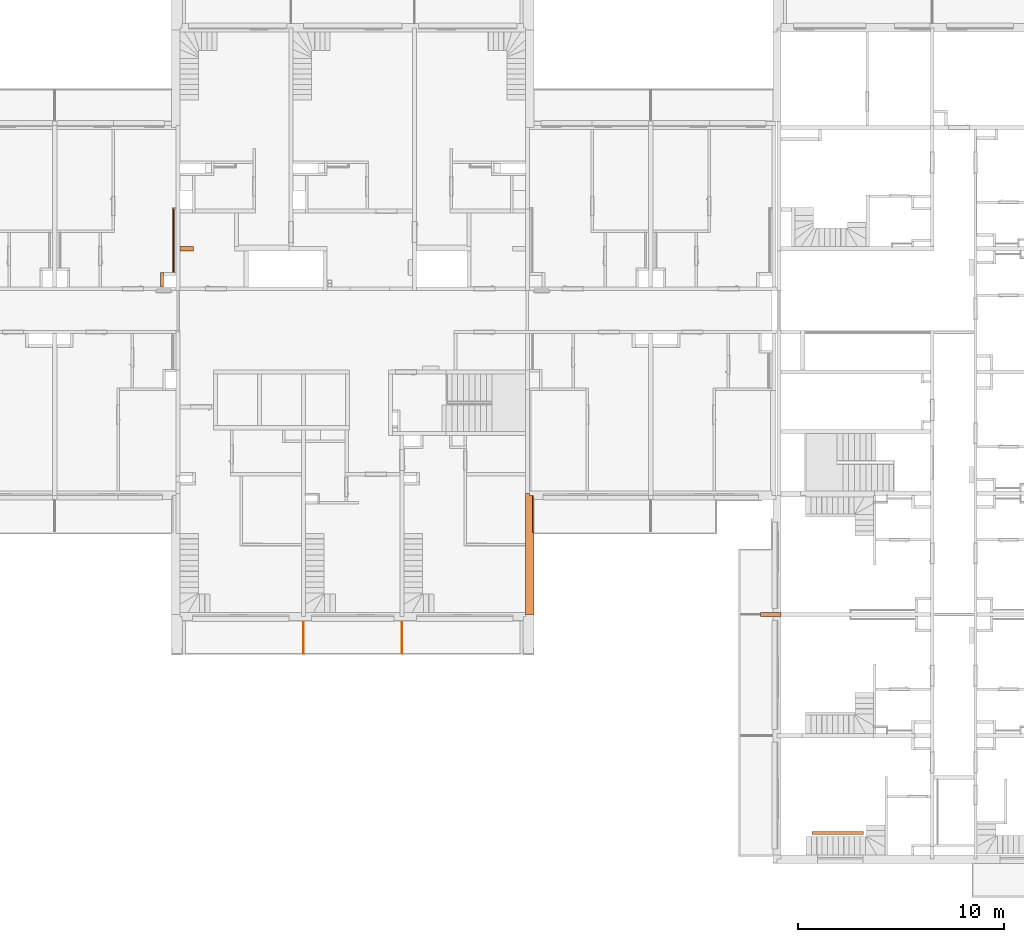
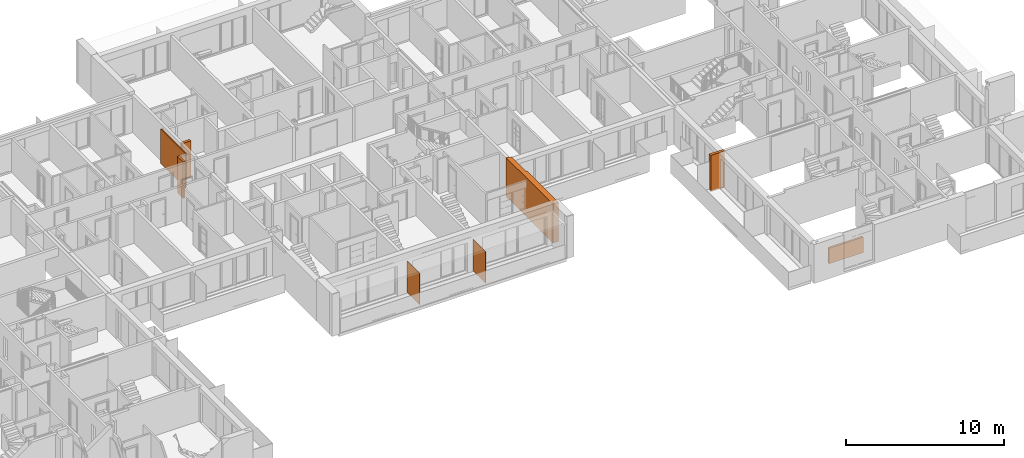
# One storey, part 50 of 61: 8 proxies.
"""IFC2X3 building model written with IfcOpenShell, lengths in millimetres."""

from ifc_helpers import new_model, entity, si_unit, converted_unit, derived_unit, money_unit, direction, frame, origin_with_axes, place, context, subcontext, project, spatial, faceted_brep, material, material_list, type_object, element, save


model = new_model("IFC2X3")

# Units and contexts
model_context = context("Model", 3, precision=0.01, world=origin_with_axes(), true_north=direction((0.34421633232, 0.938890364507)))
body_context = subcontext(model_context, "Body", "Model", "MODEL_VIEW")
ifc_project = project(units=[si_unit("LENGTHUNIT", "METRE", prefix="MILLI"), si_unit("AREAUNIT", "SQUARE_METRE"), si_unit("VOLUMEUNIT", "CUBIC_METRE"), converted_unit("PLANEANGLEUNIT", "DEGREE", entity("IfcPlaneAngleMeasure", 0.0174532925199), si_unit("PLANEANGLEUNIT", "RADIAN"), dimensions=[0, 0, 0, 0, 0, 0, 0]), si_unit("SOLIDANGLEUNIT", "STERADIAN"), money_unit("USD"), converted_unit("TIMEUNIT", "Year", entity("IfcTimeMeasure", 31556926.0), si_unit("TIMEUNIT", "SECOND"), dimensions=[0, 0, 1, 0, 0, 0, 0]), si_unit("MASSUNIT", "GRAM", prefix="KILO"), si_unit("THERMODYNAMICTEMPERATUREUNIT", "DEGREE_CELSIUS"), si_unit("LUMINOUSINTENSITYUNIT", "LUMEN"), si_unit("ENERGYUNIT", "JOULE", prefix="MEGA"), derived_unit("THERMALCONDUCTANCEUNIT", [(si_unit("POWERUNIT", "WATT"), 1), (si_unit("LENGTHUNIT", "METRE"), -1), (si_unit("THERMODYNAMICTEMPERATUREUNIT", "KELVIN"), -1)]), derived_unit("SPECIFICHEATCAPACITYUNIT", [(si_unit("ENERGYUNIT", "JOULE"), 1), (si_unit("MASSUNIT", "GRAM", prefix="KILO"), -1), (si_unit("THERMODYNAMICTEMPERATUREUNIT", "KELVIN"), -1)]), derived_unit("MASSDENSITYUNIT", [(si_unit("MASSUNIT", "GRAM", prefix="KILO"), 1), (si_unit("VOLUMEUNIT", "CUBIC_METRE"), -1)])], contexts=[model_context])

# Site, building, storey
site_placement = place(None, origin_with_axes())
site = spatial("IfcSite", under=ifc_project, at=site_placement, Name="USTRONIE MORSKIE", CompositionType="ELEMENT")
building_placement = place(site_placement, origin_with_axes())
building = spatial("IfcBuilding", under=site, at=building_placement, Name="Budynek", CompositionType="ELEMENT")
storey_placement = place(building_placement, frame((0.0, 0.0, 13000.0), z_axis=(0.0, 0.0, 1.0), x_axis=(1.0, 0.0, 0.0)))
storey = spatial("IfcBuildingStorey", under=building, at=storey_placement, Name="PIĘTRO 4", CompositionType="ELEMENT", Elevation=13000.0)

# Proxies
ifc_material_1 = material(Name="Tynk zewnętrzny")
ifc_material_2 = material(Name="Wełna ELEW")
ifc_material_3 = material(Name="Beton konstrukcyjny B25")
ifc_material_list_1 = material_list([ifc_material_1, ifc_material_2, ifc_material_3])
building_element_proxy_type_1 = type_object("IfcBuildingElementProxyType", Name="20+20 410", PredefinedType="NOTDEFINED")
proxy_1_placement = place(storey_placement, frame((396317.920919, 726901.199036, -160.0), z_axis=(0.0, 0.0, 1.0), x_axis=(0.0, -1.0, 0.0)))
element("IfcBuildingElementProxy", 1, at=proxy_1_placement, inside=storey, type_object=building_element_proxy_type_1, material=ifc_material_list_1, Name="SZ-01", context=body_context, shape_type="Brep", body=[
    faceted_brep([(300.0, 300.0, 2800.00000171), (300.0, 310.0, 2800.00000171), (300.0, 310.0, 110.0), (300.0, 300.271623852, 110.0), (300.0, 300.271623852, 0.0), (300.0, 300.0, 0.0), (1900.00053772, 310.0, 2800.00000171), (1900.00053772, 300.0, 2800.00000171), (1900.00053772, 310.0, 3000.00000171), (5900.0, 310.0, 3000.0), (5900.0, 310.0, 0.0), (1900.00067759, 310.0, 0.0), (1900.00067759, 310.0, 110.0), (1900.00067759, 301.719629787, 110.0), (1900.00067759, 301.719629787, 0.0), (5900.0, 300.0, 0.0), (5900.0, 300.0, 3000.0), (1900.00053772, 300.0, 3000.00000171)], [[[0, 1, 2, 3, 4, 5]], [[6, 1, 0, 7]], [[6, 8, 9, 10, 11, 12, 2, 1]], [[3, 2, 12, 13]], [[3, 13, 14, 4]], [[14, 11, 10, 15, 5, 4]], [[7, 0, 5, 15, 16, 17]], [[17, 8, 6, 7]], [[8, 17, 16, 9]], [[10, 9, 16, 15]], [[13, 12, 11, 14]]]),
    faceted_brep([(99.9999803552, 250.0, 3000.00000171), (99.9999803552, 250.0, 2800.00000171), (99.9999803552, 300.0, 2800.00000171), (100.0, 300.0, 0.0), (100.0, 100.0, 0.0), (100.0, 100.0, 3000.0), (1900.00053772, 250.0, 3000.00000171), (1900.00053772, 250.0, 2800.00000171), (1900.00053772, 300.0, 2800.00000171), (1900.00053772, 300.0, 3000.00000171), (5900.0, 300.0, 3000.0), (5900.0, 300.0, 0.0), (5900.0, 100.0, 0.0), (5900.0, 100.0, 3000.0)], [[[0, 1, 2, 3, 4, 5]], [[1, 0, 6, 7]], [[8, 2, 1, 7]], [[8, 9, 10, 11, 3, 2]], [[12, 4, 3, 11]], [[12, 13, 5, 4]], [[6, 0, 5, 13, 10, 9]], [[6, 9, 8, 7]], [[11, 10, 13, 12]]]),
    faceted_brep([(0.0, -100.0, 0.0), (0.0, -100.0, 3000.0), (0.0, 100.0, 3000.0), (0.0, 100.0, 0.0), (5900.0, -100.0, 0.0), (5900.0, -100.0, 3000.0), (5900.0, 100.0, 3000.0), (5900.0, 100.0, 0.0)], [[[0, 1, 2, 3]], [[4, 5, 1, 0]], [[5, 6, 2, 1]], [[3, 2, 6, 7]], [[4, 0, 3, 7]], [[7, 6, 5, 4]]]),
])
ifc_material_4 = material(Name="Płyta GK")
ifc_material_5 = material(Name="-Pustka powietrzna")
ifc_material_list_2 = material_list([ifc_material_4, ifc_material_4, ifc_material_5])
building_element_proxy_type_2 = type_object("IfcBuildingElementProxyType", Name="330-SD GK 2-warstwy 75", PredefinedType="NOTDEFINED")
proxy_2_placement = place(storey_placement, frame((379087.943039, 737501.202288, -180.0), z_axis=(0.0, 0.0, 1.0), x_axis=(0.0, 1.0, 0.0)))
element("IfcBuildingElementProxy", 2, at=proxy_2_placement, inside=storey, type_object=building_element_proxy_type_2, material=ifc_material_list_2, Name="Ściana-009", context=body_context, shape_type="Brep", body=[
    faceted_brep([(150.0, 12.5, 165.0), (3295.0, 12.5, 165.0), (3295.0, 12.5, 2820.0), (150.0, 12.5, 2820.0), (3295.0, 25.0, 165.0), (150.0, 25.0, 165.0), (3295.0, 25.0, 2820.0), (150.0, 25.0, 2820.0)], [[[0, 1, 2, 3]], [[4, 1, 0, 5]], [[1, 4, 6, 2]], [[6, 7, 3, 2]], [[5, 0, 3, 7]], [[4, 5, 7, 6]]]),
    faceted_brep([(150.0, 0.0, 165.0), (3282.5, 0.0, 165.0), (3282.5, 0.0, 2820.0), (150.0, 0.0, 2820.0), (3282.5, 12.5, 165.0), (150.0, 12.5, 165.0), (3282.5, 12.5, 2820.0), (150.0, 12.5, 2820.0)], [[[0, 1, 2, 3]], [[4, 1, 0, 5]], [[1, 4, 6, 2]], [[6, 7, 3, 2]], [[5, 0, 3, 7]], [[4, 5, 7, 6]]]),
    faceted_brep([(150.0, -50.0, 180.0), (3270.0, -50.0, 180.0), (3270.0, -50.0, 2820.0), (150.0, -50.0, 2820.0), (3270.0, 0.0, 180.0), (150.0, 0.0, 180.0), (3270.0, 0.0, 2820.0), (150.0, 0.0, 2820.0)], [[[0, 1, 2, 3]], [[4, 1, 0, 5]], [[1, 4, 6, 2]], [[6, 7, 3, 2]], [[5, 0, 3, 7]], [[4, 5, 7, 6]]]),
])
ifc_material_6 = material(Name="Bloczki silikatowe")
building_element_proxy_type_3 = type_object("IfcBuildingElementProxyType", Name="Bloczki silikatowe 150", PredefinedType="NOTDEFINED")
proxy_3_placement = place(storey_placement, frame((412667.920919, 710376.199036, -160.0), z_axis=(0.0, 0.0, 1.0), x_axis=(-1.0, 0.0, 0.0)))
element("IfcBuildingElementProxy", 3, at=proxy_3_placement, inside=storey, type_object=building_element_proxy_type_3, material=ifc_material_6, Name="SW-03", context=body_context, shape_type="Brep", body=[
    faceted_brep([(0.0, -75.0, 1200.0), (2500.0, -75.0, 1200.0), (2500.0, 75.0, 1200.0), (0.0, 75.0, 1200.0), (0.0, -75.0, 0.0), (2500.0, -75.0, 0.0), (2500.0, 75.0, 0.0), (0.0, 75.0, 0.0)], [[[0, 1, 2, 3]], [[4, 5, 1, 0]], [[2, 1, 5, 6]], [[3, 2, 6, 7]], [[4, 0, 3, 7]], [[7, 6, 5, 4]]]),
])
proxy_4_placement = place(storey_placement, frame((378617.937739, 736851.19885, -160.0), z_axis=(0.0, 0.0, 1.0), x_axis=(0.0, 1.0, 0.0)))
element("IfcBuildingElementProxy", 4, at=proxy_4_placement, inside=storey, type_object=building_element_proxy_type_3, material=ifc_material_6, Name="SW-03", context=body_context, shape_type="Brep", body=[
    faceted_brep([(800.003437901, 0.0, 2800.0), (800.003437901, 150.0, 2800.0), (80.0001859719, 150.0, 2800.0), (80.0001859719, 0.0, 2800.0), (800.003437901, 0.0, 0.0), (800.003437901, 150.0, 0.0), (80.0001859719, 150.0, 0.0), (80.0001859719, 0.0, 0.0)], [[[0, 1, 2, 3]], [[1, 0, 4, 5]], [[1, 5, 6, 2]], [[7, 3, 2, 6]], [[4, 0, 3, 7]], [[5, 4, 7, 6]]]),
])
building_element_proxy_type_4 = type_object("IfcBuildingElementProxyType", Name="Beton konstrukcyjny B25 200", PredefinedType="NOTDEFINED")
proxy_5_placement = place(storey_placement, frame((407667.88964, 721001.199036, -160.0), z_axis=(0.0, 0.0, 1.0), x_axis=(1.0, 0.0, 0.0)))
element("IfcBuildingElementProxy", 5, at=proxy_5_placement, inside=storey, type_object=building_element_proxy_type_4, material=ifc_material_3, Name="SW-01", context=body_context, shape_type="Brep", body=[
    faceted_brep([(0.0, 100.0, 0.0), (1000.01835277, 100.0, 0.0), (1000.01795839, -100.0, 0.0), (0.0, -100.0, 0.0), (0.0, 100.0, 2800.0), (1000.01835277, 100.0, 2800.0), (1000.01795839, -100.0, 2800.0), (0.0, -100.0, 2800.0)], [[[0, 1, 2, 3]], [[4, 5, 1, 0]], [[6, 2, 1, 5]], [[3, 2, 6, 7]], [[7, 4, 0, 3]], [[7, 6, 5, 4]]]),
])
proxy_6_placement = place(storey_placement, frame((380067.920919, 738801.199036, -160.0), z_axis=(0.0, 0.0, 1.0), x_axis=(-1.0, 0.0, 0.0)))
element("IfcBuildingElementProxy", 6, at=proxy_6_placement, inside=storey, type_object=building_element_proxy_type_4, material=ifc_material_3, Name="SW-01", context=body_context, shape_type="Brep", body=[
    faceted_brep([(650.0, -100.0, 2800.0), (650.0, 100.0, 2800.0), (0.0, 100.0, 2800.0), (0.0, -100.0, 2800.0), (650.0, -100.0, 0.0), (650.0, 100.0, 0.0), (0.0, 100.0, 0.0), (0.0, -100.0, 0.0)], [[[0, 1, 2, 3]], [[1, 0, 4, 5]], [[1, 5, 6, 2]], [[7, 3, 2, 6]], [[4, 0, 3, 7]], [[5, 4, 7, 6]]]),
])
ifc_material_7 = material(Name="Woda")
building_element_proxy_type_5 = type_object("IfcBuildingElementProxyType", Name="Woda 30", PredefinedType="NOTDEFINED")
for number, where, z_axis, x_axis, name in (
    (7, (385417.920919, 720651.199036, 20.0), (0.0, 0.0, 1.0), (0.0, -1.0, 0.0), "Œciana-007"),
    (8, (390217.920919, 720651.199036, 20.0), (0.0, 0.0, 1.0), (0.0, -1.0, 0.0), "Œciana-007"),
):
    element("IfcBuildingElementProxy", number, at=place(storey_placement, frame(where, z_axis=z_axis, x_axis=x_axis)), inside=storey, type_object=building_element_proxy_type_5, material=ifc_material_7, Name=name, context=body_context, shape_type="Brep", body=[
        faceted_brep([(0.0, -15.0, 2429.99999792), (1550.0, -15.0, 2429.99999792), (1550.0, 15.0, 2429.99999792), (0.0, 15.0, 2429.99999792), (0.0, -15.0, 0.0), (1550.0, -15.0, 0.0), (1550.0, 15.0, 0.0), (0.0, 15.0, 0.0)], [[[0, 1, 2, 3]], [[4, 5, 1, 0]], [[2, 1, 5, 6]], [[3, 2, 6, 7]], [[4, 0, 3, 7]], [[7, 6, 5, 4]]]),
    ])

save(model, "model.ifc")
